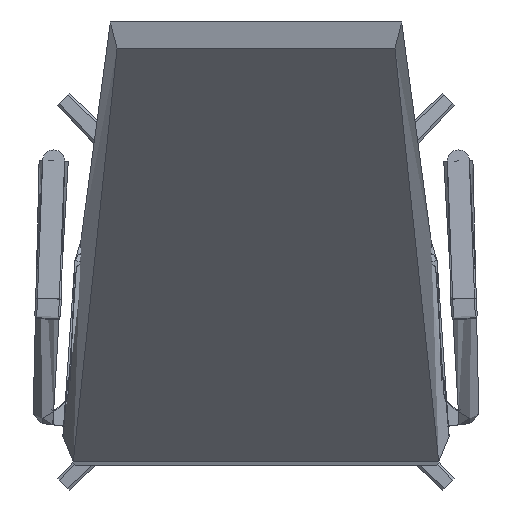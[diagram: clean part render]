
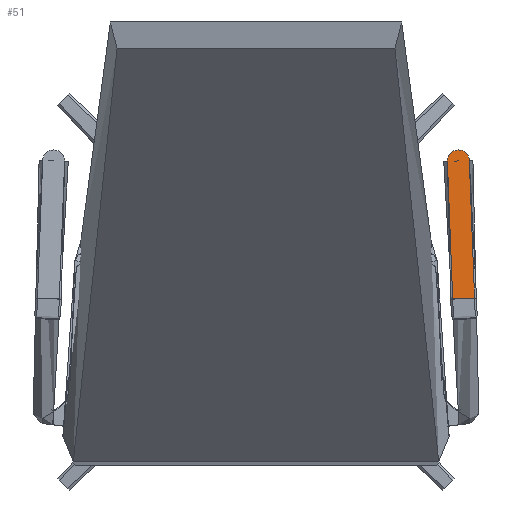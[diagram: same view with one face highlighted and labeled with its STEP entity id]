
A CAD part, top view. The second image highlights one B-rep face of the part: STEP entity #51.
In plain terms, the highlighted planar face has unit normal (-0.001, 0.07, 0.998).
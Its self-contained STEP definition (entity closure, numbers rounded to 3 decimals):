
#51=ADVANCED_FACE('',(#242),#2661,.T.);
#242=FACE_OUTER_BOUND('',#433,.T.);
#433=EDGE_LOOP('',(#642,#643));
#642=ORIENTED_EDGE('',*,*,#1493,.T.);
#643=ORIENTED_EDGE('',*,*,#1500,.F.);
#1493=EDGE_CURVE('',#2401,#2396,#2216,.T.);
#1500=EDGE_CURVE('',#2401,#2396,#1943,.T.);
#1943=(
BOUNDED_CURVE()
B_SPLINE_CURVE(3,(#3748,#3749,#3750,#3751,#3752,#3753,#3754,#3755,#3756,
#3757,#3758,#3759,#3760,#3761,#3762,#3763,#3764,#3765,#3766,#3767,#3768,
#3769,#3770),.UNSPECIFIED.,.F.,.F.)
B_SPLINE_CURVE_WITH_KNOTS((4,3,3,1,1,1,1,1,1,1,3,3,4),(0.,
4.793,208.24,214.719,221.199,227.678,
234.157,240.637,247.116,253.596,260.075,
463.522,468.315),.UNSPECIFIED.)
CURVE()
GEOMETRIC_REPRESENTATION_ITEM()
RATIONAL_B_SPLINE_CURVE((1.,1.,1.,1.,1.,1.,1.,1.,1.,1.,1.,
1.,1.,1.,1.,1.,1.,1.,
1.,1.,1.,1.,1.))
REPRESENTATION_ITEM('')
);
#2216=B_SPLINE_CURVE_WITH_KNOTS('',1,(#3685,#3686),.UNSPECIFIED.,.F.,.F.,
(2,2),(0.077,0.923),.UNSPECIFIED.);
#2396=VERTEX_POINT('',#3566);
#2401=VERTEX_POINT('',#3571);
#2661=PLANE('',#2940);
#2940=AXIS2_PLACEMENT_3D('',#3208,#2989,$);
#2989=DIRECTION('',(-0.001,0.07,0.998));
#3208=CARTESIAN_POINT('',(323.75,216.561,600.591));
#3566=CARTESIAN_POINT('',(329.503,-10.569,616.503));
#3571=CARTESIAN_POINT('',(296.527,-11.836,616.567));
#3685=CARTESIAN_POINT('',(296.527,-11.836,616.567));
#3686=CARTESIAN_POINT('',(329.503,-10.569,616.503));
#3748=CARTESIAN_POINT('',(296.527,-11.836,616.567));
#3749=CARTESIAN_POINT('',(296.466,-10.243,616.456));
#3750=CARTESIAN_POINT('',(296.404,-8.651,616.344));
#3751=CARTESIAN_POINT('',(296.343,-7.058,616.232));
#3752=CARTESIAN_POINT('',(293.738,60.542,611.496));
#3753=CARTESIAN_POINT('',(291.131,128.142,606.76));
#3754=CARTESIAN_POINT('',(288.526,195.741,602.023));
#3755=CARTESIAN_POINT('',(288.441,197.894,601.872));
#3756=CARTESIAN_POINT('',(289.135,202.232,601.569));
#3757=CARTESIAN_POINT('',(292.591,207.848,601.178));
#3758=CARTESIAN_POINT('',(297.938,211.718,600.911));
#3759=CARTESIAN_POINT('',(304.363,213.251,600.809));
#3760=CARTESIAN_POINT('',(310.886,212.215,600.886));
#3761=CARTESIAN_POINT('',(316.516,208.768,601.132));
#3762=CARTESIAN_POINT('',(320.394,203.433,601.508));
#3763=CARTESIAN_POINT('',(321.419,199.161,601.808));
#3764=CARTESIAN_POINT('',(321.501,197.008,601.959));
#3765=CARTESIAN_POINT('',(324.107,129.408,606.695));
#3766=CARTESIAN_POINT('',(326.713,61.808,611.432));
#3767=CARTESIAN_POINT('',(329.319,-5.792,616.168));
#3768=CARTESIAN_POINT('',(329.38,-7.384,616.28));
#3769=CARTESIAN_POINT('',(329.442,-8.977,616.391));
#3770=CARTESIAN_POINT('',(329.503,-10.569,616.503));
